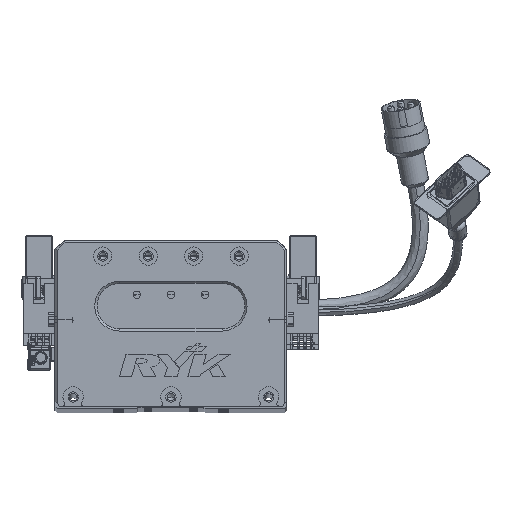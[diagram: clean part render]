
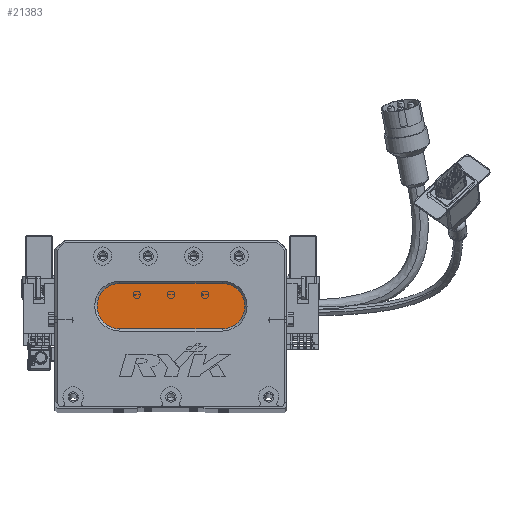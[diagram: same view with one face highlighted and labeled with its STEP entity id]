
A CAD part, top view. The second image highlights one B-rep face of the part: STEP entity #21383.
In plain terms, the highlighted planar face has unit normal (0, 0, 1) as drawn and (0, 0, -1) by its records, which use the part's own axes.
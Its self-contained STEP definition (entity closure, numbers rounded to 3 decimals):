
#1165 = ORIENTED_EDGE ( 'NONE', *, *, #36022, .T. ) ;
#2633 = CARTESIAN_POINT ( 'NONE',  ( 28.5, 34., 13. ) ) ;
#5610 = CARTESIAN_POINT ( 'NONE',  ( 28.5, 44., 13. ) ) ;
#6835 = DIRECTION ( 'NONE',  ( 1., 0., 0. ) ) ;
#7005 = VECTOR ( 'NONE', #65480, 1000. ) ;
#7975 = CARTESIAN_POINT ( 'NONE',  ( 73.5, 34., 13. ) ) ;
#8559 = VERTEX_POINT ( 'NONE', #68860 ) ;
#10893 = EDGE_CURVE ( 'NONE', #44178, #62945, #54596, .T. ) ;
#11322 = DIRECTION ( 'NONE',  ( 0., 0., -1. ) ) ;
#15741 = CARTESIAN_POINT ( 'NONE',  ( 28.5, 44., 13. ) ) ;
#21230 = DIRECTION ( 'NONE',  ( -1., 0., 0. ) ) ;
#21383 = ADVANCED_FACE ( 'NONE', ( #40681 ), #43064, .T. ) ;
#21969 = DIRECTION ( 'NONE',  ( 0., 0., -1. ) ) ;
#24772 = CIRCLE ( 'NONE', #64409, 10. ) ;
#27445 = CARTESIAN_POINT ( 'NONE',  ( 73.5, 34., 13. ) ) ;
#29486 = DIRECTION ( 'NONE',  ( -1., 0., 0. ) ) ;
#30546 = CARTESIAN_POINT ( 'NONE',  ( 73.5, 54., 13. ) ) ;
#36022 = EDGE_CURVE ( 'NONE', #50681, #44178, #38650, .T. ) ;
#38644 = DIRECTION ( 'NONE',  ( -1., 0., 0. ) ) ;
#38650 = LINE ( 'NONE', #56500, #69268 ) ;
#40681 = FACE_OUTER_BOUND ( 'NONE', #56961, .T. ) ;
#42091 = VERTEX_POINT ( 'NONE', #2633 ) ;
#43064 = PLANE ( 'NONE',  #47304 ) ;
#44178 = VERTEX_POINT ( 'NONE', #30546 ) ;
#45858 = AXIS2_PLACEMENT_3D ( 'NONE', #67321, #46130, #29486 ) ;
#46130 = DIRECTION ( 'NONE',  ( 0., 0., -1. ) ) ;
#47304 = AXIS2_PLACEMENT_3D ( 'NONE', #59254, #21969, #65423 ) ;
#49802 = ORIENTED_EDGE ( 'NONE', *, *, #54999, .T. ) ;
#50681 = VERTEX_POINT ( 'NONE', #64675 ) ;
#50755 = EDGE_CURVE ( 'NONE', #42091, #8559, #24772, .T. ) ;
#53119 = CIRCLE ( 'NONE', #67670, 10. ) ;
#54596 = CIRCLE ( 'NONE', #45858, 10. ) ;
#54999 = EDGE_CURVE ( 'NONE', #62945, #42091, #58023, .T. ) ;
#56500 = CARTESIAN_POINT ( 'NONE',  ( 73.5, 54., 13. ) ) ;
#56961 = EDGE_LOOP ( 'NONE', ( #63484, #49802, #59737, #58130, #1165 ) ) ;
#58023 = LINE ( 'NONE', #27445, #7005 ) ;
#58130 = ORIENTED_EDGE ( 'NONE', *, *, #60834, .T. ) ;
#59254 = CARTESIAN_POINT ( 'NONE',  ( 73.5, 44., 13. ) ) ;
#59737 = ORIENTED_EDGE ( 'NONE', *, *, #50755, .T. ) ;
#60834 = EDGE_CURVE ( 'NONE', #8559, #50681, #53119, .T. ) ;
#62945 = VERTEX_POINT ( 'NONE', #7975 ) ;
#63484 = ORIENTED_EDGE ( 'NONE', *, *, #10893, .T. ) ;
#64409 = AXIS2_PLACEMENT_3D ( 'NONE', #15741, #64438, #21230 ) ;
#64438 = DIRECTION ( 'NONE',  ( 0., 0., -1. ) ) ;
#64675 = CARTESIAN_POINT ( 'NONE',  ( 28.5, 54., 13. ) ) ;
#65423 = DIRECTION ( 'NONE',  ( -1., 0., 0. ) ) ;
#65480 = DIRECTION ( 'NONE',  ( -1., 0., 0. ) ) ;
#67321 = CARTESIAN_POINT ( 'NONE',  ( 73.5, 44., 13. ) ) ;
#67670 = AXIS2_PLACEMENT_3D ( 'NONE', #5610, #11322, #38644 ) ;
#68860 = CARTESIAN_POINT ( 'NONE',  ( 18.5, 44., 13. ) ) ;
#69268 = VECTOR ( 'NONE', #6835, 1000. ) ;
